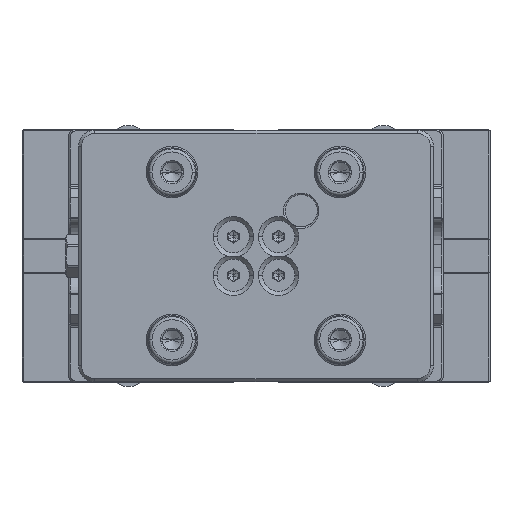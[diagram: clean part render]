
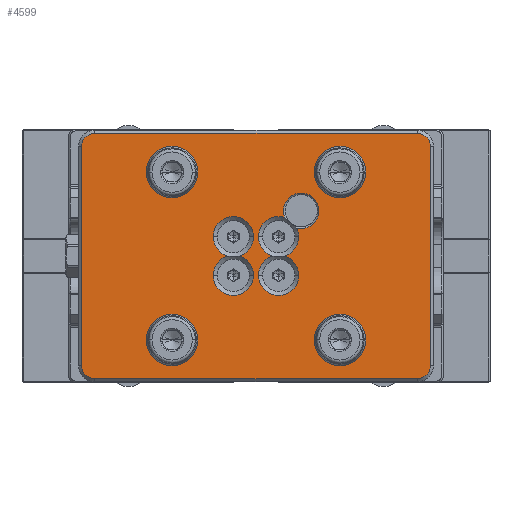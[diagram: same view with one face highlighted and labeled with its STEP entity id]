
A CAD part, front view. The second image highlights one B-rep face of the part: STEP entity #4599.
In plain terms, the highlighted planar face has unit normal (0, -1, 0).
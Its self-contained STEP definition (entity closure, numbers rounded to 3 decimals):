
#2=CARTESIAN_POINT('',(26.,0.,-26.));
#3=DIRECTION('',(0.,1.,0.));
#4=DIRECTION('',(1.,0.,0.));
#5=AXIS2_PLACEMENT_3D('',#2,#3,#4);
#7=CARTESIAN_POINT('',(26.,0.,-26.));
#8=DIRECTION('',(0.,1.,0.));
#9=DIRECTION('',(-1.,0.,0.));
#10=AXIS2_PLACEMENT_3D('',#7,#8,#9);
#12=CARTESIAN_POINT('',(26.,0.,26.));
#13=DIRECTION('',(0.,1.,0.));
#14=DIRECTION('',(1.,0.,0.));
#15=AXIS2_PLACEMENT_3D('',#12,#13,#14);
#17=CARTESIAN_POINT('',(26.,0.,26.));
#18=DIRECTION('',(0.,1.,0.));
#19=DIRECTION('',(-1.,0.,0.));
#20=AXIS2_PLACEMENT_3D('',#17,#18,#19);
#22=CARTESIAN_POINT('',(-26.,0.,-26.));
#23=DIRECTION('',(0.,1.,0.));
#24=DIRECTION('',(1.,0.,0.));
#25=AXIS2_PLACEMENT_3D('',#22,#23,#24);
#27=CARTESIAN_POINT('',(-26.,0.,-26.));
#28=DIRECTION('',(0.,1.,0.));
#29=DIRECTION('',(-1.,0.,0.));
#30=AXIS2_PLACEMENT_3D('',#27,#28,#29);
#32=CARTESIAN_POINT('',(-26.,0.,26.));
#33=DIRECTION('',(0.,1.,0.));
#34=DIRECTION('',(1.,0.,0.));
#35=AXIS2_PLACEMENT_3D('',#32,#33,#34);
#37=CARTESIAN_POINT('',(-26.,0.,26.));
#38=DIRECTION('',(0.,1.,0.));
#39=DIRECTION('',(-1.,0.,0.));
#40=AXIS2_PLACEMENT_3D('',#37,#38,#39);
#42=CARTESIAN_POINT('',(-7.,0.,-6.));
#43=DIRECTION('',(0.,-1.,0.));
#44=DIRECTION('',(-1.,0.,0.));
#45=AXIS2_PLACEMENT_3D('',#42,#43,#44);
#47=CARTESIAN_POINT('',(-7.,0.,-6.));
#48=DIRECTION('',(0.,-1.,0.));
#49=DIRECTION('',(1.,0.,0.));
#50=AXIS2_PLACEMENT_3D('',#47,#48,#49);
#52=CARTESIAN_POINT('',(-7.,0.,6.));
#53=DIRECTION('',(0.,-1.,0.));
#54=DIRECTION('',(0.28,0.,-0.96));
#55=AXIS2_PLACEMENT_3D('',#52,#53,#54);
#57=CARTESIAN_POINT('',(-7.,0.,6.));
#58=DIRECTION('',(0.,-1.,0.));
#59=DIRECTION('',(1.,0.,0.));
#60=AXIS2_PLACEMENT_3D('',#57,#58,#59);
#62=CARTESIAN_POINT('',(-7.,0.,6.));
#63=DIRECTION('',(0.,-1.,0.));
#64=DIRECTION('',(-1.,0.,0.));
#65=AXIS2_PLACEMENT_3D('',#62,#63,#64);
#67=CARTESIAN_POINT('',(-7.,0.,-6.));
#68=DIRECTION('',(0.,-1.,0.));
#69=DIRECTION('',(-0.28,0.,0.96));
#70=AXIS2_PLACEMENT_3D('',#67,#68,#69);
#72=CARTESIAN_POINT('',(7.,0.,-6.));
#73=DIRECTION('',(0.,-1.,0.));
#74=DIRECTION('',(-1.,0.,0.));
#75=AXIS2_PLACEMENT_3D('',#72,#73,#74);
#77=CARTESIAN_POINT('',(7.,0.,-6.));
#78=DIRECTION('',(0.,-1.,0.));
#79=DIRECTION('',(1.,0.,0.));
#80=AXIS2_PLACEMENT_3D('',#77,#78,#79);
#82=CARTESIAN_POINT('',(7.,0.,6.));
#83=DIRECTION('',(0.,-1.,0.));
#84=DIRECTION('',(0.28,0.,-0.96));
#85=AXIS2_PLACEMENT_3D('',#82,#83,#84);
#87=CARTESIAN_POINT('',(7.,0.,6.));
#88=DIRECTION('',(0.,-1.,0.));
#89=DIRECTION('',(1.,0.,0.));
#90=AXIS2_PLACEMENT_3D('',#87,#88,#89);
#92=CARTESIAN_POINT('',(7.,0.,6.));
#93=DIRECTION('',(0.,-1.,0.));
#94=DIRECTION('',(0.303,0.,0.953));
#95=AXIS2_PLACEMENT_3D('',#92,#93,#94);
#97=CARTESIAN_POINT('',(7.,0.,6.));
#98=DIRECTION('',(0.,-1.,0.));
#99=DIRECTION('',(-1.,0.,0.));
#100=AXIS2_PLACEMENT_3D('',#97,#98,#99);
#102=CARTESIAN_POINT('',(7.,0.,-6.));
#103=DIRECTION('',(0.,-1.,0.));
#104=DIRECTION('',(-0.28,0.,0.96));
#105=AXIS2_PLACEMENT_3D('',#102,#103,#104);
#107=DIRECTION('',(0.,0.,-1.));
#108=VECTOR('',#107,68.);
#109=CARTESIAN_POINT('',(-54.,0.,
34.));
#110=LINE('',#109,#108);
#111=CARTESIAN_POINT('',(-50.,0.,34.));
#112=DIRECTION('',(0.,-1.,0.));
#113=DIRECTION('',(0.,0.,1.));
#114=AXIS2_PLACEMENT_3D('',#111,#112,#113);
#116=DIRECTION('',(-1.,0.,0.));
#117=VECTOR('',#116,100.);
#118=CARTESIAN_POINT('',(50.,0.,38.));
#119=LINE('',#118,#117);
#120=CARTESIAN_POINT('',(50.,0.,34.));
#121=DIRECTION('',(0.,-1.,0.));
#122=DIRECTION('',(1.,0.,0.));
#123=AXIS2_PLACEMENT_3D('',#120,#121,#122);
#125=DIRECTION('',(0.,0.,1.));
#126=VECTOR('',#125,68.);
#127=CARTESIAN_POINT('',(54.,0.,
-34.));
#128=LINE('',#127,#126);
#129=CARTESIAN_POINT('',(50.,0.,-34.));
#130=DIRECTION('',(0.,-1.,0.));
#131=DIRECTION('',(0.,0.,-1.));
#132=AXIS2_PLACEMENT_3D('',#129,#130,#131);
#134=DIRECTION('',(1.,0.,0.));
#135=VECTOR('',#134,100.);
#136=CARTESIAN_POINT('',(-50.,0.,
-38.));
#137=LINE('',#136,#135);
#138=CARTESIAN_POINT('',(-50.,0.,-34.));
#139=DIRECTION('',(0.,-1.,0.));
#140=DIRECTION('',(-1.,0.,0.));
#141=AXIS2_PLACEMENT_3D('',#138,#139,#140);
#694=CARTESIAN_POINT('',(14.,0.,14.));
#695=DIRECTION('',(0.,1.,0.));
#696=DIRECTION('',(-0.928,0.,-0.372));
#697=AXIS2_PLACEMENT_3D('',#694,#695,#696);
#3630=CARTESIAN_POINT('',(32.5,0.,-26.));
#3631=CARTESIAN_POINT('',(19.5,0.,-26.));
#3632=VERTEX_POINT('',#3630);
#3633=VERTEX_POINT('',#3631);
#3638=CARTESIAN_POINT('',(32.5,0.,26.));
#3639=CARTESIAN_POINT('',(19.5,0.,26.));
#3640=VERTEX_POINT('',#3638);
#3641=VERTEX_POINT('',#3639);
#3646=CARTESIAN_POINT('',(-19.5,0.,-26.));
#3647=CARTESIAN_POINT('',(-32.5,0.,-26.));
#3648=VERTEX_POINT('',#3646);
#3649=VERTEX_POINT('',#3647);
#3654=CARTESIAN_POINT('',(-19.5,0.,26.));
#3655=CARTESIAN_POINT('',(-32.5,0.,26.));
#3656=VERTEX_POINT('',#3654);
#3657=VERTEX_POINT('',#3655);
#3806=CARTESIAN_POINT('',(-0.75,0.,6.));
#3807=CARTESIAN_POINT('',(-13.25,0.,6.));
#3808=VERTEX_POINT('',#3806);
#3809=VERTEX_POINT('',#3807);
#3814=CARTESIAN_POINT('',(13.25,0.,6.));
#3815=CARTESIAN_POINT('',(12.652,0.,8.668));
#3816=VERTEX_POINT('',#3814);
#3817=VERTEX_POINT('',#3815);
#3818=CARTESIAN_POINT('',(8.894,0.,11.956));
#3819=CARTESIAN_POINT('',(0.75,0.,6.));
#3820=VERTEX_POINT('',#3818);
#3821=VERTEX_POINT('',#3819);
#3828=CARTESIAN_POINT('',(-13.25,0.,-6.));
#3829=CARTESIAN_POINT('',(-0.75,0.,-6.));
#3830=VERTEX_POINT('',#3828);
#3831=VERTEX_POINT('',#3829);
#3832=CARTESIAN_POINT('',(-5.25,0.,0.));
#3833=VERTEX_POINT('',#3832);
#3834=CARTESIAN_POINT('',(-8.75,0.,0.));
#3835=VERTEX_POINT('',#3834);
#3840=CARTESIAN_POINT('',(0.75,0.,-6.));
#3841=CARTESIAN_POINT('',(13.25,0.,-6.));
#3842=VERTEX_POINT('',#3840);
#3843=VERTEX_POINT('',#3841);
#3844=CARTESIAN_POINT('',(8.75,0.,0.));
#3845=VERTEX_POINT('',#3844);
#3846=CARTESIAN_POINT('',(5.25,0.,0.));
#3847=VERTEX_POINT('',#3846);
#4324=CARTESIAN_POINT('',(-54.,0.,
34.));
#4325=CARTESIAN_POINT('',(-54.,0.,
-34.));
#4326=VERTEX_POINT('',#4324);
#4327=VERTEX_POINT('',#4325);
#4328=CARTESIAN_POINT('',(-50.,0.,38.));
#4329=VERTEX_POINT('',#4328);
#4332=CARTESIAN_POINT('',(50.,0.,
38.));
#4333=VERTEX_POINT('',#4332);
#4336=CARTESIAN_POINT('',(54.,0.,34.));
#4337=VERTEX_POINT('',#4336);
#4340=CARTESIAN_POINT('',(54.,0.,
-34.));
#4341=VERTEX_POINT('',#4340);
#4344=CARTESIAN_POINT('',(50.,0.,-38.));
#4345=VERTEX_POINT('',#4344);
#4348=CARTESIAN_POINT('',(-50.,0.,
-38.));
#4349=VERTEX_POINT('',#4348);
#4520=CARTESIAN_POINT('',(0.,0.,0.));
#4521=DIRECTION('',(0.,1.,0.));
#4522=DIRECTION('',(1.,0.,0.));
#4523=AXIS2_PLACEMENT_3D('',#4520,#4521,#4522);
#4524=PLANE('',#4523);
#4526=ORIENTED_EDGE('',*,*,#4525,.F.);
#4528=ORIENTED_EDGE('',*,*,#4527,.F.);
#4530=ORIENTED_EDGE('',*,*,#4529,.F.);
#4532=ORIENTED_EDGE('',*,*,#4531,.F.);
#4534=ORIENTED_EDGE('',*,*,#4533,.F.);
#4536=ORIENTED_EDGE('',*,*,#4535,.F.);
#4538=ORIENTED_EDGE('',*,*,#4537,.F.);
#4540=ORIENTED_EDGE('',*,*,#4539,.F.);
#4541=EDGE_LOOP('',(#4526,#4528,#4530,#4532,#4534,#4536,#4538,#4540));
#4542=FACE_OUTER_BOUND('',#4541,.F.);
#4544=ORIENTED_EDGE('',*,*,#4543,.F.);
#4546=ORIENTED_EDGE('',*,*,#4545,.F.);
#4547=EDGE_LOOP('',(#4544,#4546));
#4548=FACE_BOUND('',#4547,.F.);
#4550=ORIENTED_EDGE('',*,*,#4549,.F.);
#4552=ORIENTED_EDGE('',*,*,#4551,.F.);
#4553=EDGE_LOOP('',(#4550,#4552));
#4554=FACE_BOUND('',#4553,.F.);
#4556=ORIENTED_EDGE('',*,*,#4555,.F.);
#4558=ORIENTED_EDGE('',*,*,#4557,.F.);
#4559=EDGE_LOOP('',(#4556,#4558));
#4560=FACE_BOUND('',#4559,.F.);
#4562=ORIENTED_EDGE('',*,*,#4561,.T.);
#4564=ORIENTED_EDGE('',*,*,#4563,.T.);
#4566=ORIENTED_EDGE('',*,*,#4565,.T.);
#4568=ORIENTED_EDGE('',*,*,#4567,.T.);
#4570=ORIENTED_EDGE('',*,*,#4569,.T.);
#4572=ORIENTED_EDGE('',*,*,#4571,.T.);
#4573=EDGE_LOOP('',(#4562,#4564,#4566,#4568,#4570,#4572));
#4574=FACE_BOUND('',#4573,.F.);
#4576=ORIENTED_EDGE('',*,*,#4575,.T.);
#4578=ORIENTED_EDGE('',*,*,#4577,.T.);
#4580=ORIENTED_EDGE('',*,*,#4579,.T.);
#4582=ORIENTED_EDGE('',*,*,#4581,.T.);
#4584=ORIENTED_EDGE('',*,*,#4583,.F.);
#4586=ORIENTED_EDGE('',*,*,#4585,.T.);
#4588=ORIENTED_EDGE('',*,*,#4587,.T.);
#4590=ORIENTED_EDGE('',*,*,#4589,.T.);
#4591=EDGE_LOOP('',(#4576,#4578,#4580,#4582,#4584,#4586,#4588,#4590));
#4592=FACE_BOUND('',#4591,.F.);
#4594=ORIENTED_EDGE('',*,*,#4593,.F.);
#4596=ORIENTED_EDGE('',*,*,#4595,.F.);
#4597=EDGE_LOOP('',(#4594,#4596));
#4598=FACE_BOUND('',#4597,.F.);
#6=CIRCLE('',#5,6.5);
#11=CIRCLE('',#10,6.5);
#16=CIRCLE('',#15,6.5);
#21=CIRCLE('',#20,6.5);
#26=CIRCLE('',#25,6.5);
#31=CIRCLE('',#30,6.5);
#36=CIRCLE('',#35,6.5);
#41=CIRCLE('',#40,6.5);
#46=CIRCLE('',#45,6.25);
#51=CIRCLE('',#50,6.25);
#56=CIRCLE('',#55,6.25);
#61=CIRCLE('',#60,6.25);
#66=CIRCLE('',#65,6.25);
#71=CIRCLE('',#70,6.25);
#76=CIRCLE('',#75,6.25);
#81=CIRCLE('',#80,6.25);
#86=CIRCLE('',#85,6.25);
#91=CIRCLE('',#90,6.25);
#96=CIRCLE('',#95,6.25);
#101=CIRCLE('',#100,6.25);
#106=CIRCLE('',#105,6.25);
#115=CIRCLE('',#114,4.);
#124=CIRCLE('',#123,4.);
#133=CIRCLE('',#132,4.);
#142=CIRCLE('',#141,4.);
#698=CIRCLE('',#697,5.5);
#4525=EDGE_CURVE('',#4326,#4327,#110,.T.);
#4527=EDGE_CURVE('',#4329,#4326,#115,.T.);
#4529=EDGE_CURVE('',#4333,#4329,#119,.T.);
#4531=EDGE_CURVE('',#4337,#4333,#124,.T.);
#4533=EDGE_CURVE('',#4341,#4337,#128,.T.);
#4535=EDGE_CURVE('',#4345,#4341,#133,.T.);
#4537=EDGE_CURVE('',#4349,#4345,#137,.T.);
#4539=EDGE_CURVE('',#4327,#4349,#142,.T.);
#4543=EDGE_CURVE('',#3640,#3641,#16,.T.);
#4545=EDGE_CURVE('',#3641,#3640,#21,.T.);
#4549=EDGE_CURVE('',#3648,#3649,#26,.T.);
#4551=EDGE_CURVE('',#3649,#3648,#31,.T.);
#4555=EDGE_CURVE('',#3656,#3657,#36,.T.);
#4557=EDGE_CURVE('',#3657,#3656,#41,.T.);
#4561=EDGE_CURVE('',#3830,#3831,#46,.T.);
#4563=EDGE_CURVE('',#3831,#3833,#51,.T.);
#4565=EDGE_CURVE('',#3833,#3808,#56,.T.);
#4567=EDGE_CURVE('',#3808,#3809,#61,.T.);
#4569=EDGE_CURVE('',#3809,#3835,#66,.T.);
#4571=EDGE_CURVE('',#3835,#3830,#71,.T.);
#4575=EDGE_CURVE('',#3842,#3843,#76,.T.);
#4577=EDGE_CURVE('',#3843,#3845,#81,.T.);
#4579=EDGE_CURVE('',#3845,#3816,#86,.T.);
#4581=EDGE_CURVE('',#3816,#3817,#91,.T.);
#4583=EDGE_CURVE('',#3820,#3817,#698,.T.);
#4585=EDGE_CURVE('',#3820,#3821,#96,.T.);
#4587=EDGE_CURVE('',#3821,#3847,#101,.T.);
#4589=EDGE_CURVE('',#3847,#3842,#106,.T.);
#4593=EDGE_CURVE('',#3632,#3633,#6,.T.);
#4595=EDGE_CURVE('',#3633,#3632,#11,.T.);
#4599=ADVANCED_FACE('',(#4542,#4548,#4554,#4560,#4574,#4592,#4598),#4524,.F.);
